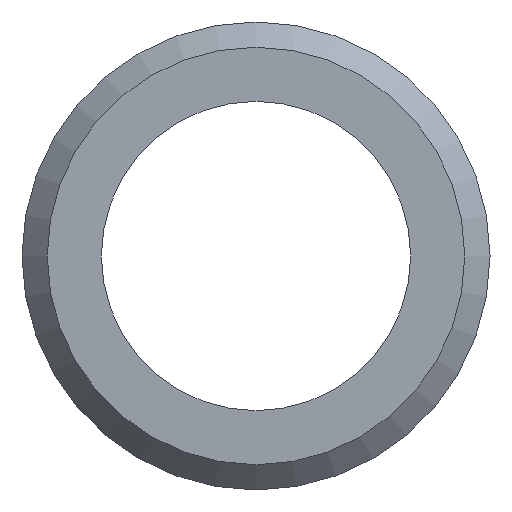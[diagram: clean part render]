
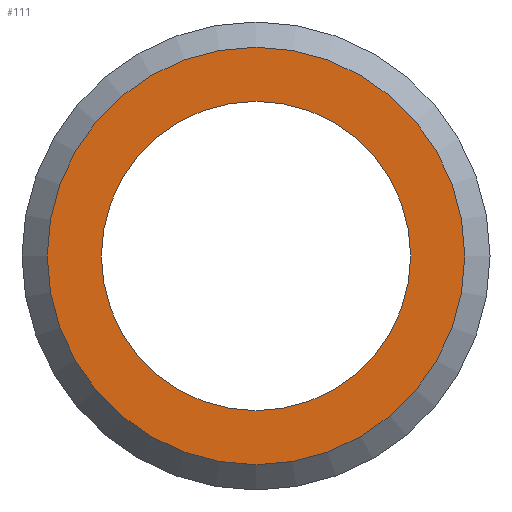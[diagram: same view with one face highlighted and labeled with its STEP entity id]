
A CAD part, front view. The second image highlights one B-rep face of the part: STEP entity #111.
In plain terms, the highlighted planar face has unit normal (0, -1, 0).
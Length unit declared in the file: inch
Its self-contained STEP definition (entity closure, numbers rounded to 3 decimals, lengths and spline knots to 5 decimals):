
#16=FACE_BOUND('',#33,.T.);
#18=PLANE('',#139);
#25=FACE_OUTER_BOUND('',#32,.T.);
#32=EDGE_LOOP('',(#96));
#33=EDGE_LOOP('',(#97,#98));
#50=CIRCLE('',#138,0.083);
#51=CIRCLE('',#140,0.0615);
#52=CIRCLE('',#141,0.0615);
#60=VERTEX_POINT('',#202);
#61=VERTEX_POINT('',#206);
#62=VERTEX_POINT('',#207);
#72=EDGE_CURVE('',#60,#60,#50,.T.);
#74=EDGE_CURVE('',#61,#62,#51,.T.);
#75=EDGE_CURVE('',#62,#61,#52,.T.);
#96=ORIENTED_EDGE('',*,*,#72,.F.);
#97=ORIENTED_EDGE('',*,*,#74,.F.);
#98=ORIENTED_EDGE('',*,*,#75,.F.);
#111=ADVANCED_FACE('',(#25,#16),#18,.T.);
#138=AXIS2_PLACEMENT_3D('',#203,#169,#170);
#139=AXIS2_PLACEMENT_3D('',#205,#172,#173);
#140=AXIS2_PLACEMENT_3D('',#208,#174,#175);
#141=AXIS2_PLACEMENT_3D('',#209,#176,#177);
#169=DIRECTION('center_axis',(0.,1.,0.));
#170=DIRECTION('ref_axis',(0.,0.,1.));
#172=DIRECTION('center_axis',(0.,-1.,0.));
#173=DIRECTION('ref_axis',(0.,0.,-1.));
#174=DIRECTION('center_axis',(0.,-1.,0.));
#175=DIRECTION('ref_axis',(1.,0.,0.));
#176=DIRECTION('center_axis',(0.,-1.,0.));
#177=DIRECTION('ref_axis',(1.,0.,0.));
#202=CARTESIAN_POINT('',(0.,0.,-0.083));
#203=CARTESIAN_POINT('Origin',(0.,0.,0.));
#205=CARTESIAN_POINT('Origin',(0.,0.,-0.0615));
#206=CARTESIAN_POINT('',(0.,0.,-0.0615));
#207=CARTESIAN_POINT('',(0.,0.,0.0615));
#208=CARTESIAN_POINT('Origin',(0.,0.,0.));
#209=CARTESIAN_POINT('Origin',(0.,0.,0.));
